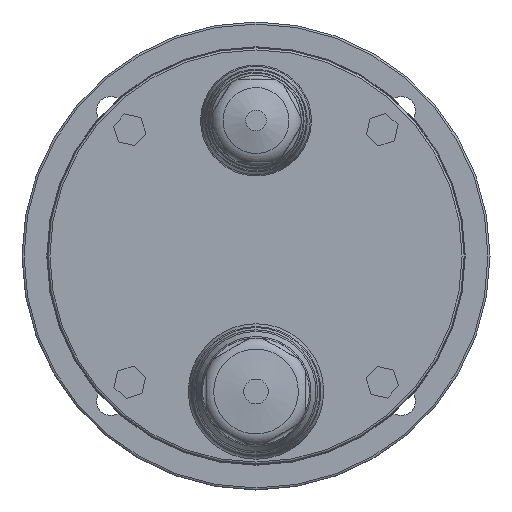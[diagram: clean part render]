
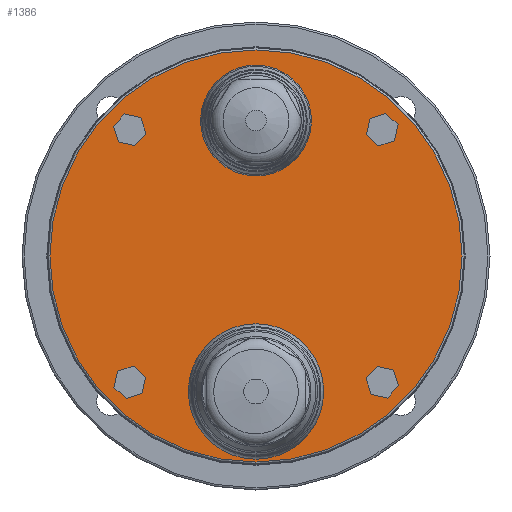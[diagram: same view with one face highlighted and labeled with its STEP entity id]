
A CAD part, front view. The second image highlights one B-rep face of the part: STEP entity #1386.
In plain terms, the highlighted planar face has unit normal (0, -1, 0).
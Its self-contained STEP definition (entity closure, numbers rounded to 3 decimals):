
#151=CARTESIAN_POINT('',(8.0,41.245,33.0));
#152=VERTEX_POINT('',#151);
#153=CARTESIAN_POINT('',(0.0,41.245,33.0));
#154=DIRECTION('',(0.0,1.0,0.0));
#155=DIRECTION('',(1.0,0.0,0.0));
#156=AXIS2_PLACEMENT_3D('',#153,#154,#155);
#157=CIRCLE('',#156,8.0);
#158=EDGE_CURVE('',#152,#152,#157,.T.);
#188=CARTESIAN_POINT('',(10.,41.245,-33.0));
#189=VERTEX_POINT('',#188);
#190=CARTESIAN_POINT('',(0.,41.245,-33.0));
#191=DIRECTION('',(0.0,1.0,0.0));
#192=DIRECTION('',(1.0,0.0,0.0));
#193=AXIS2_PLACEMENT_3D('',#190,#191,#192);
#194=CIRCLE('',#193,10.0);
#195=EDGE_CURVE('',#189,#189,#194,.T.);
#235=CARTESIAN_POINT('',(31.985,41.245,-34.61));
#236=VERTEX_POINT('',#235);
#243=CARTESIAN_POINT('',(34.707,41.245,-31.623));
#244=VERTEX_POINT('',#243);
#245=CARTESIAN_POINT('',(34.707,41.245,-31.623));
#246=DIRECTION('',(-0.673,0.0,-0.739));
#247=VECTOR('',#246,4.041);
#248=LINE('',#245,#247);
#249=EDGE_CURVE('',#244,#236,#248,.T.);
#273=CARTESIAN_POINT('',(28.037,41.245,-33.747));
#274=VERTEX_POINT('',#273);
#281=CARTESIAN_POINT('',(31.985,41.245,-34.61));
#282=DIRECTION('',(-0.977,0.0,0.214));
#283=VECTOR('',#282,4.041);
#284=LINE('',#281,#283);
#285=EDGE_CURVE('',#236,#274,#284,.T.);
#304=CARTESIAN_POINT('',(26.811,41.245,-29.896));
#305=VERTEX_POINT('',#304);
#312=CARTESIAN_POINT('',(28.037,41.245,-33.747));
#313=DIRECTION('',(-0.303,0.0,0.953));
#314=VECTOR('',#313,4.041);
#315=LINE('',#312,#314);
#316=EDGE_CURVE('',#274,#305,#315,.T.);
#335=CARTESIAN_POINT('',(29.533,41.245,-26.908));
#336=VERTEX_POINT('',#335);
#343=CARTESIAN_POINT('',(26.811,41.245,-29.896));
#344=DIRECTION('',(0.673,0.0,0.739));
#345=VECTOR('',#344,4.041);
#346=LINE('',#343,#345);
#347=EDGE_CURVE('',#305,#336,#346,.T.);
#366=CARTESIAN_POINT('',(33.481,41.245,-27.772));
#367=VERTEX_POINT('',#366);
#374=CARTESIAN_POINT('',(29.533,41.245,-26.908));
#375=DIRECTION('',(0.977,0.0,-0.214));
#376=VECTOR('',#375,4.041);
#377=LINE('',#374,#376);
#378=EDGE_CURVE('',#336,#367,#377,.T.);
#396=CARTESIAN_POINT('',(33.481,41.245,-27.772));
#397=DIRECTION('',(0.303,0.0,-0.953));
#398=VECTOR('',#397,4.041);
#399=LINE('',#396,#398);
#400=EDGE_CURVE('',#367,#244,#399,.T.);
#435=CARTESIAN_POINT('',(-34.61,41.245,-31.985));
#436=VERTEX_POINT('',#435);
#443=CARTESIAN_POINT('',(-31.623,41.245,-34.707));
#444=VERTEX_POINT('',#443);
#445=CARTESIAN_POINT('',(-31.623,41.245,-34.707));
#446=DIRECTION('',(-0.739,0.0,0.673));
#447=VECTOR('',#446,4.041);
#448=LINE('',#445,#447);
#449=EDGE_CURVE('',#444,#436,#448,.T.);
#473=CARTESIAN_POINT('',(-33.747,41.245,-28.037));
#474=VERTEX_POINT('',#473);
#481=CARTESIAN_POINT('',(-34.61,41.245,-31.985));
#482=DIRECTION('',(0.214,0.0,0.977));
#483=VECTOR('',#482,4.041);
#484=LINE('',#481,#483);
#485=EDGE_CURVE('',#436,#474,#484,.T.);
#504=CARTESIAN_POINT('',(-29.896,41.245,-26.811));
#505=VERTEX_POINT('',#504);
#512=CARTESIAN_POINT('',(-33.747,41.245,-28.037));
#513=DIRECTION('',(0.953,0.0,0.303));
#514=VECTOR('',#513,4.041);
#515=LINE('',#512,#514);
#516=EDGE_CURVE('',#474,#505,#515,.T.);
#535=CARTESIAN_POINT('',(-26.908,41.245,-29.533));
#536=VERTEX_POINT('',#535);
#543=CARTESIAN_POINT('',(-29.896,41.245,-26.811));
#544=DIRECTION('',(0.739,0.0,-0.673));
#545=VECTOR('',#544,4.041);
#546=LINE('',#543,#545);
#547=EDGE_CURVE('',#505,#536,#546,.T.);
#566=CARTESIAN_POINT('',(-27.772,41.245,-33.481));
#567=VERTEX_POINT('',#566);
#574=CARTESIAN_POINT('',(-26.908,41.245,-29.533));
#575=DIRECTION('',(-0.214,0.0,-0.977));
#576=VECTOR('',#575,4.041);
#577=LINE('',#574,#576);
#578=EDGE_CURVE('',#536,#567,#577,.T.);
#596=CARTESIAN_POINT('',(-27.772,41.245,-33.481));
#597=DIRECTION('',(-0.953,0.0,-0.303));
#598=VECTOR('',#597,4.041);
#599=LINE('',#596,#598);
#600=EDGE_CURVE('',#567,#444,#599,.T.);
#635=CARTESIAN_POINT('',(-31.985,41.245,34.61));
#636=VERTEX_POINT('',#635);
#643=CARTESIAN_POINT('',(-34.707,41.245,31.623));
#644=VERTEX_POINT('',#643);
#645=CARTESIAN_POINT('',(-34.707,41.245,31.623));
#646=DIRECTION('',(0.673,0.0,0.739));
#647=VECTOR('',#646,4.041);
#648=LINE('',#645,#647);
#649=EDGE_CURVE('',#644,#636,#648,.T.);
#673=CARTESIAN_POINT('',(-28.037,41.245,33.747));
#674=VERTEX_POINT('',#673);
#681=CARTESIAN_POINT('',(-31.985,41.245,34.61));
#682=DIRECTION('',(0.977,0.0,-0.214));
#683=VECTOR('',#682,4.041);
#684=LINE('',#681,#683);
#685=EDGE_CURVE('',#636,#674,#684,.T.);
#704=CARTESIAN_POINT('',(-26.811,41.245,29.896));
#705=VERTEX_POINT('',#704);
#712=CARTESIAN_POINT('',(-28.037,41.245,33.747));
#713=DIRECTION('',(0.303,0.0,-0.953));
#714=VECTOR('',#713,4.041);
#715=LINE('',#712,#714);
#716=EDGE_CURVE('',#674,#705,#715,.T.);
#735=CARTESIAN_POINT('',(-29.533,41.245,26.908));
#736=VERTEX_POINT('',#735);
#743=CARTESIAN_POINT('',(-26.811,41.245,29.896));
#744=DIRECTION('',(-0.673,0.0,-0.739));
#745=VECTOR('',#744,4.041);
#746=LINE('',#743,#745);
#747=EDGE_CURVE('',#705,#736,#746,.T.);
#766=CARTESIAN_POINT('',(-33.481,41.245,27.772));
#767=VERTEX_POINT('',#766);
#774=CARTESIAN_POINT('',(-29.533,41.245,26.908));
#775=DIRECTION('',(-0.977,0.0,0.214));
#776=VECTOR('',#775,4.041);
#777=LINE('',#774,#776);
#778=EDGE_CURVE('',#736,#767,#777,.T.);
#796=CARTESIAN_POINT('',(-33.481,41.245,27.772));
#797=DIRECTION('',(-0.303,0.0,0.953));
#798=VECTOR('',#797,4.041);
#799=LINE('',#796,#798);
#800=EDGE_CURVE('',#767,#644,#799,.T.);
#835=CARTESIAN_POINT('',(34.61,41.245,31.985));
#836=VERTEX_POINT('',#835);
#843=CARTESIAN_POINT('',(31.623,41.245,34.707));
#844=VERTEX_POINT('',#843);
#845=CARTESIAN_POINT('',(31.623,41.245,34.707));
#846=DIRECTION('',(0.739,0.0,-0.673));
#847=VECTOR('',#846,4.041);
#848=LINE('',#845,#847);
#849=EDGE_CURVE('',#844,#836,#848,.T.);
#873=CARTESIAN_POINT('',(33.747,41.245,28.037));
#874=VERTEX_POINT('',#873);
#881=CARTESIAN_POINT('',(34.61,41.245,31.985));
#882=DIRECTION('',(-0.214,0.0,-0.977));
#883=VECTOR('',#882,4.041);
#884=LINE('',#881,#883);
#885=EDGE_CURVE('',#836,#874,#884,.T.);
#904=CARTESIAN_POINT('',(29.896,41.245,26.811));
#905=VERTEX_POINT('',#904);
#912=CARTESIAN_POINT('',(33.747,41.245,28.037));
#913=DIRECTION('',(-0.953,0.0,-0.303));
#914=VECTOR('',#913,4.041);
#915=LINE('',#912,#914);
#916=EDGE_CURVE('',#874,#905,#915,.T.);
#935=CARTESIAN_POINT('',(26.908,41.245,29.533));
#936=VERTEX_POINT('',#935);
#943=CARTESIAN_POINT('',(29.896,41.245,26.811));
#944=DIRECTION('',(-0.739,0.0,0.673));
#945=VECTOR('',#944,4.041);
#946=LINE('',#943,#945);
#947=EDGE_CURVE('',#905,#936,#946,.T.);
#966=CARTESIAN_POINT('',(27.772,41.245,33.481));
#967=VERTEX_POINT('',#966);
#974=CARTESIAN_POINT('',(26.908,41.245,29.533));
#975=DIRECTION('',(0.214,0.0,0.977));
#976=VECTOR('',#975,4.041);
#977=LINE('',#974,#976);
#978=EDGE_CURVE('',#936,#967,#977,.T.);
#996=CARTESIAN_POINT('',(27.772,41.245,33.481));
#997=DIRECTION('',(0.953,0.0,0.303));
#998=VECTOR('',#997,4.041);
#999=LINE('',#996,#998);
#1000=EDGE_CURVE('',#967,#844,#999,.T.);
#1325=CARTESIAN_POINT('',(50.2,41.245,0.0));
#1326=VERTEX_POINT('',#1325);
#1327=CARTESIAN_POINT('',(0.0,41.245,0.0));
#1328=DIRECTION('',(0.0,-1.0,0.0));
#1329=DIRECTION('',(1.0,0.0,0.0));
#1330=AXIS2_PLACEMENT_3D('',#1327,#1328,#1329);
#1331=CIRCLE('',#1330,50.2);
#1332=EDGE_CURVE('',#1326,#1326,#1331,.T.);
#1340=CARTESIAN_POINT('',(25.1,41.245,0.0));
#1341=DIRECTION('',(0.0,-1.0,0.0));
#1342=DIRECTION('',(0.0,0.0,-1.0));
#1343=AXIS2_PLACEMENT_3D('',#1340,#1341,#1342);
#1344=PLANE('',#1343);
#1345=ORIENTED_EDGE('',*,*,#1332,.T.);
#1346=EDGE_LOOP('',(#1345));
#1347=FACE_OUTER_BOUND('',#1346,.T.);
#1348=ORIENTED_EDGE('',*,*,#158,.T.);
#1349=EDGE_LOOP('',(#1348));
#1350=FACE_BOUND('',#1349,.T.);
#1351=ORIENTED_EDGE('',*,*,#195,.T.);
#1352=EDGE_LOOP('',(#1351));
#1353=FACE_BOUND('',#1352,.T.);
#1354=ORIENTED_EDGE('',*,*,#249,.T.);
#1355=ORIENTED_EDGE('',*,*,#285,.T.);
#1356=ORIENTED_EDGE('',*,*,#316,.T.);
#1357=ORIENTED_EDGE('',*,*,#347,.T.);
#1358=ORIENTED_EDGE('',*,*,#378,.T.);
#1359=ORIENTED_EDGE('',*,*,#400,.T.);
#1360=EDGE_LOOP('',(#1354,#1355,#1356,#1357,#1358,#1359));
#1361=FACE_BOUND('',#1360,.T.);
#1362=ORIENTED_EDGE('',*,*,#449,.T.);
#1363=ORIENTED_EDGE('',*,*,#485,.T.);
#1364=ORIENTED_EDGE('',*,*,#516,.T.);
#1365=ORIENTED_EDGE('',*,*,#547,.T.);
#1366=ORIENTED_EDGE('',*,*,#578,.T.);
#1367=ORIENTED_EDGE('',*,*,#600,.T.);
#1368=EDGE_LOOP('',(#1362,#1363,#1364,#1365,#1366,#1367));
#1369=FACE_BOUND('',#1368,.T.);
#1370=ORIENTED_EDGE('',*,*,#649,.T.);
#1371=ORIENTED_EDGE('',*,*,#685,.T.);
#1372=ORIENTED_EDGE('',*,*,#716,.T.);
#1373=ORIENTED_EDGE('',*,*,#747,.T.);
#1374=ORIENTED_EDGE('',*,*,#778,.T.);
#1375=ORIENTED_EDGE('',*,*,#800,.T.);
#1376=EDGE_LOOP('',(#1370,#1371,#1372,#1373,#1374,#1375));
#1377=FACE_BOUND('',#1376,.T.);
#1378=ORIENTED_EDGE('',*,*,#849,.T.);
#1379=ORIENTED_EDGE('',*,*,#885,.T.);
#1380=ORIENTED_EDGE('',*,*,#916,.T.);
#1381=ORIENTED_EDGE('',*,*,#947,.T.);
#1382=ORIENTED_EDGE('',*,*,#978,.T.);
#1383=ORIENTED_EDGE('',*,*,#1000,.T.);
#1384=EDGE_LOOP('',(#1378,#1379,#1380,#1381,#1382,#1383));
#1385=FACE_BOUND('',#1384,.T.);
#1386=ADVANCED_FACE('',(#1347,#1350,#1353,#1361,#1369,#1377,#1385),#1344,.T.);
